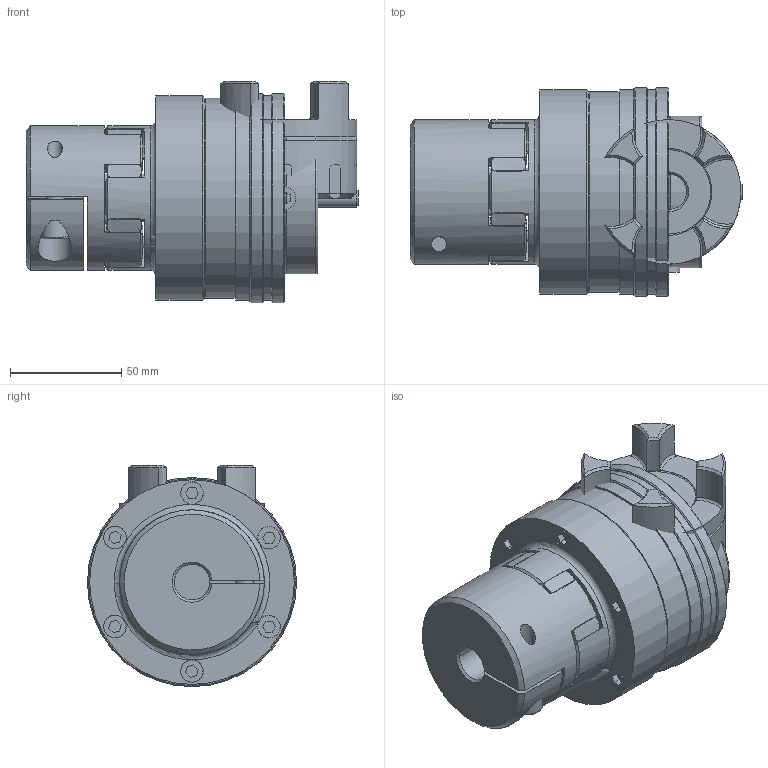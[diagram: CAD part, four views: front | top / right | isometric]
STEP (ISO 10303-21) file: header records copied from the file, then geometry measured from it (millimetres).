
FILE_DESCRIPTION( ( 'Unknown' ), '1' );
FILE_NAME( 'C:/Dokumente und Einstellungen/Sven/Desktop/hp kbk/E-KI/KBK EKI-28-135.stp', 'Unknown', ( 'Unknown' ), ( 'Unknown' ), 'XStep 1.0', 'Unknown', ' ' );
FILE_SCHEMA( ( 'automotive_design' ) );
Length unit declared in the file: millimetre
Products named in the file (18): Assem1; Assem2; Assem3; Zylinderschraube DIN 912_1; ball_bearing_-_6008_0_01_0; ball_bearing_-_6008_0_02_0; ball_bearing_-_6008_0_03_0; KBK L-I-80 Grundkörper_0; Konusbuchse 80_0; Stellring 80_0; Druckring 80_0; Flansch 80_0; a_40_0; din_en_24017_m6x25_0; Elastomerflansch 28_0; Zahnkranz EK28_Standard_0; KBE 2 - 28_Nabe; Socket Head Cap Screw_DIN_DIN 912 M8 x 25 --- 25N
Bounding box: 149.25 x 94 x 99.5 mm (x, y, z)
Volume: 949853 mm3; surface area: 339891.9 mm2
Topology: 44 solids, 44 shells, 1087 faces, 2488 edges, 1592 vertices
Faces by surface type: plane 409, cylinder 344, cone 276, torus 58
Full cylindrical faces by diameter (mm): 2.5 x4, 3.242 x6, 4.917 x30, 5 x24, 5.2 x6, 6 x15, 6.2 x12, 6.6 x12, 6.8 x2, 8 x2, 8.8 x7, 9 x2, 10 x8, 10.2 x12, 13 x2, 16 x2, 30 x10, 37.5 x2, 40 x7, 41 x2, 49.2 x6, 59.1 x6, 59.5 x2, 61 x2, 62 x4, 65 x4, 68 x7, 70 x2, 85 x2, 87 x2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
Entity records: 12818 total; most frequent: CARTESIAN_POINT 2960, DIRECTION 2119, ORIENTED_EDGE 1654, AXIS2_PLACEMENT_3D 968, EDGE_CURVE 827, EDGE_LOOP 685, VERTEX_POINT 601, FACE_OUTER_BOUND 545
